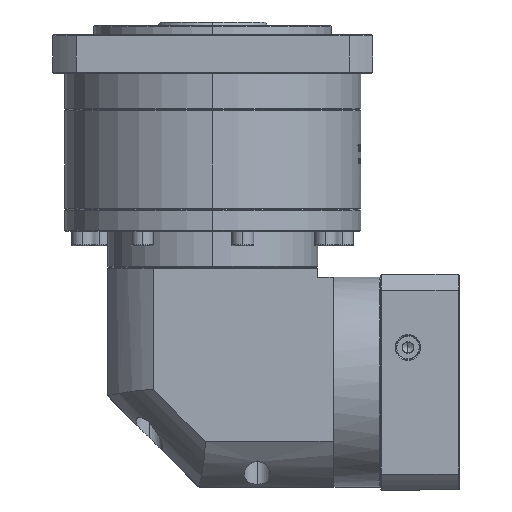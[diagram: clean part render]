
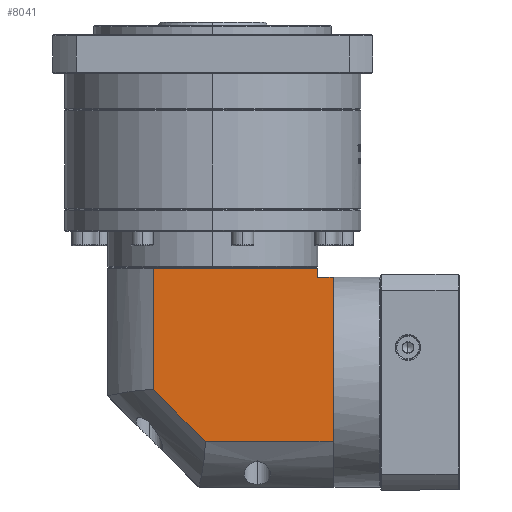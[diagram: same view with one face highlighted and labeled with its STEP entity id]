
A CAD part, left-side view. The second image highlights one B-rep face of the part: STEP entity #8041.
In plain terms, the highlighted planar face has unit normal (-1, 0, 0).
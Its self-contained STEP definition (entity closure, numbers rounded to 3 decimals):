
#1435 = VERTEX_POINT ( 'NONE', #6449 ) ;
#2254 = CARTESIAN_POINT ( 'NONE',  ( -239.744, 29.635, 123.326 ) ) ;
#2778 = DIRECTION ( 'NONE',  ( 1., 0., 0. ) ) ;
#3298 = CARTESIAN_POINT ( 'NONE',  ( -239.744, -23.804, 21.926 ) ) ;
#4624 = CARTESIAN_POINT ( 'NONE',  ( -239.744, -23.804, 21.926 ) ) ;
#6449 = CARTESIAN_POINT ( 'NONE',  ( -239.744, -85.365, 116.826 ) ) ;
#7637 = ORIENTED_EDGE ( 'NONE', *, *, #109795, .F. ) ;
#8041 = ADVANCED_FACE ( 'NONE', ( #110080 ), #63782, .F. ) ;
#10495 = ORIENTED_EDGE ( 'NONE', *, *, #47100, .T. ) ;
#10964 = DIRECTION ( 'NONE',  ( 0., 0., 1. ) ) ;
#12734 = DIRECTION ( 'NONE',  ( 0., 1., 0. ) ) ;
#17637 = DIRECTION ( 'NONE',  ( 0., 0.707, 0.707 ) ) ;
#19852 = LINE ( 'NONE', #34192, #124626 ) ;
#20551 = EDGE_CURVE ( 'NONE', #96848, #140713, #126614, .T. ) ;
#20620 = DIRECTION ( 'NONE',  ( 0., 1., 0. ) ) ;
#24012 = CARTESIAN_POINT ( 'NONE',  ( -239.744, -93.765, 111.826 ) ) ;
#34192 = CARTESIAN_POINT ( 'NONE',  ( -239.744, 4.535, 123.326 ) ) ;
#40484 = CARTESIAN_POINT ( 'NONE',  ( -239.744, -93.765, 21.926 ) ) ;
#43569 = CARTESIAN_POINT ( 'NONE',  ( -239.744, -85.365, 111.826 ) ) ;
#47100 = EDGE_CURVE ( 'NONE', #130209, #1435, #68847, .T. ) ;
#51813 = LINE ( 'NONE', #43569, #141529 ) ;
#56223 = LINE ( 'NONE', #150247, #72926 ) ;
#57290 = VECTOR ( 'NONE', #17637, 1000. ) ;
#63282 = ORIENTED_EDGE ( 'NONE', *, *, #20551, .F. ) ;
#63782 = PLANE ( 'NONE',  #114872 ) ;
#67676 = EDGE_CURVE ( 'NONE', #71648, #75520, #56223, .T. ) ;
#68847 = LINE ( 'NONE', #95503, #108153 ) ;
#69556 = LINE ( 'NONE', #85228, #103299 ) ;
#71648 = VERTEX_POINT ( 'NONE', #24012 ) ;
#72926 = VECTOR ( 'NONE', #149722, 1000. ) ;
#73905 = CARTESIAN_POINT ( 'NONE',  ( -239.744, 4.535, 116.826 ) ) ;
#75520 = VERTEX_POINT ( 'NONE', #40484 ) ;
#85228 = CARTESIAN_POINT ( 'NONE',  ( -239.744, 29.635, 21.926 ) ) ;
#85730 = DIRECTION ( 'NONE',  ( 0., 1., 0. ) ) ;
#89071 = DIRECTION ( 'NONE',  ( 0., -1., 0. ) ) ;
#95503 = CARTESIAN_POINT ( 'NONE',  ( -239.744, -85.365, -3.174 ) ) ;
#96848 = VERTEX_POINT ( 'NONE', #3298 ) ;
#100090 = CARTESIAN_POINT ( 'NONE',  ( -239.744, 29.635, 116.826 ) ) ;
#103299 = VECTOR ( 'NONE', #12734, 1000. ) ;
#103405 = EDGE_CURVE ( 'NONE', #75520, #96848, #69556, .T. ) ;
#108120 = EDGE_CURVE ( 'NONE', #71648, #130209, #51813, .T. ) ;
#108153 = VECTOR ( 'NONE', #10964, 1000. ) ;
#109795 = EDGE_CURVE ( 'NONE', #134851, #1435, #146323, .T. ) ;
#110080 = FACE_OUTER_BOUND ( 'NONE', #144585, .T. ) ;
#114872 = AXIS2_PLACEMENT_3D ( 'NONE', #2254, #2778, #85730 ) ;
#115537 = ORIENTED_EDGE ( 'NONE', *, *, #103405, .F. ) ;
#117738 = DIRECTION ( 'NONE',  ( 0., 0., 1. ) ) ;
#120566 = CARTESIAN_POINT ( 'NONE',  ( -239.744, 4.535, 50.264 ) ) ;
#122053 = VECTOR ( 'NONE', #89071, 1000. ) ;
#124626 = VECTOR ( 'NONE', #117738, 1000. ) ;
#126614 = LINE ( 'NONE', #4624, #57290 ) ;
#127397 = ORIENTED_EDGE ( 'NONE', *, *, #67676, .F. ) ;
#130209 = VERTEX_POINT ( 'NONE', #134098 ) ;
#132015 = ORIENTED_EDGE ( 'NONE', *, *, #108120, .T. ) ;
#134098 = CARTESIAN_POINT ( 'NONE',  ( -239.744, -85.365, 111.826 ) ) ;
#134851 = VERTEX_POINT ( 'NONE', #73905 ) ;
#136319 = EDGE_CURVE ( 'NONE', #140713, #134851, #19852, .T. ) ;
#140713 = VERTEX_POINT ( 'NONE', #120566 ) ;
#141529 = VECTOR ( 'NONE', #20620, 1000. ) ;
#144585 = EDGE_LOOP ( 'NONE', ( #152853, #63282, #115537, #127397, #132015, #10495, #7637 ) ) ;
#146323 = LINE ( 'NONE', #100090, #122053 ) ;
#149722 = DIRECTION ( 'NONE',  ( 0., 0., -1. ) ) ;
#150247 = CARTESIAN_POINT ( 'NONE',  ( -239.744, -93.765, 123.326 ) ) ;
#152853 = ORIENTED_EDGE ( 'NONE', *, *, #136319, .F. ) ;
